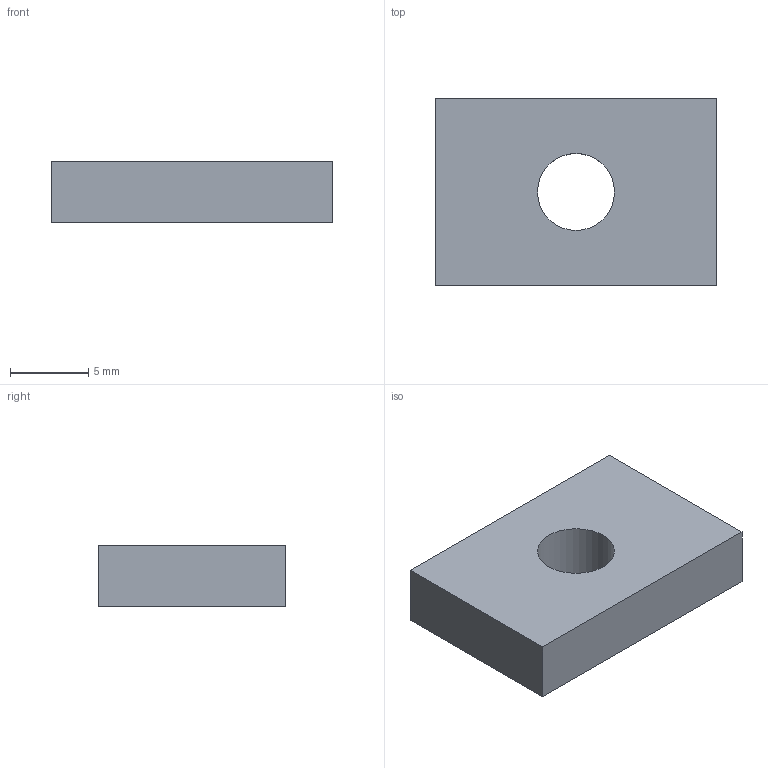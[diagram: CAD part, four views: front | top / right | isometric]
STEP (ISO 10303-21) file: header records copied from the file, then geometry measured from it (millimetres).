
FILE_DESCRIPTION(/* description */ ('Unknown','CAx-IF Rec.Pracs.---Representation and Presentation of Product Manufacturing Information (PMI)---4.0---2014-10-13','CAx-IF Rec.Pracs.---3D Tessellated Geometry---0.4---2014-09-14','2;1'),/* implementation_level */ '2;1');
FILE_NAME(/* name */ '126.00495_00',/* time_stamp */ '2024-10-01T18:03:59+02:00',/* author */ ('Unknown'),/* organization */ ('Unknown'),/* preprocessor_version */ 'ST-DEVELOPER v18.104',/* originating_system */ 'Solid Edge',/* authorisation */ 'Unknown');
FILE_SCHEMA (('AP242_MANAGED_MODEL_BASED_3D_ENGINEERING_MIM_LF { 1 0 10303 442 1 1 4 }'));
Length unit declared in the file: millimetre
Products named in the file (1): 126.00495
Bounding box: 18 x 12 x 3.9 mm (x, y, z)
Volume: 768.3 mm3; surface area: 688.3 mm2
Topology: 1 solids, 1 shells, 7 faces, 16 edges, 11 vertices
Faces by surface type: plane 6, cylinder 1
Full cylindrical faces by diameter (mm): 4.917 x1
Entity records: 261 total; most frequent: DIRECTION 34, CARTESIAN_POINT 33, ORIENTED_EDGE 28, EDGE_CURVE 14, LINE 12, VECTOR 12, AXIS2_PLACEMENT_3D 11, VERTEX_POINT 10
